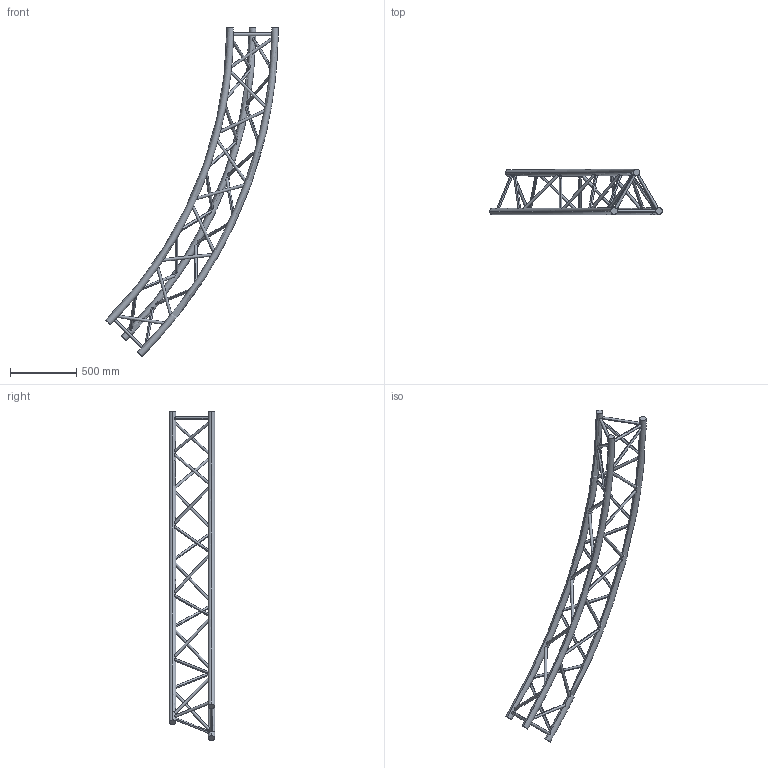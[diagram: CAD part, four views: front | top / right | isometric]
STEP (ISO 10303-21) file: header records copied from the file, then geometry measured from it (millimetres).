
FILE_DESCRIPTION (( 'STEP AP203' ), '1' );
FILE_NAME ('SXC39700PH.STEP', '2009-10-21T11:28:11', ( 'CEDIA' ), ( 'CEDIA INDUSTRIE' ), 'SwSTEP 2.0', 'SolidWorks 2009', '' );
FILE_SCHEMA (( 'CONFIG_CONTROL_DESIGN' ));
Length unit declared in the file: millimetre
Products named in the file (1): SXC39700PH
Bounding box: 1298.78 x 341.85 x 2474.87 mm (x, y, z)
Volume: 18936731.2 mm3; surface area: 1940495.4 mm2
Topology: 1 solids, 1 shells, 78 faces, 238 edges, 144 vertices
Faces by surface type: cylinder 66, torus 6, plane 6
Entity records: 8999 total; most frequent: CARTESIAN_POINT 6933, ORIENTED_EDGE 476, DIRECTION 304, EDGE_CURVE 238, VERTEX_POINT 144, B_SPLINE_CURVE_WITH_KNOTS 132, EDGE_LOOP 122, AXIS2_PLACEMENT_3D 119
